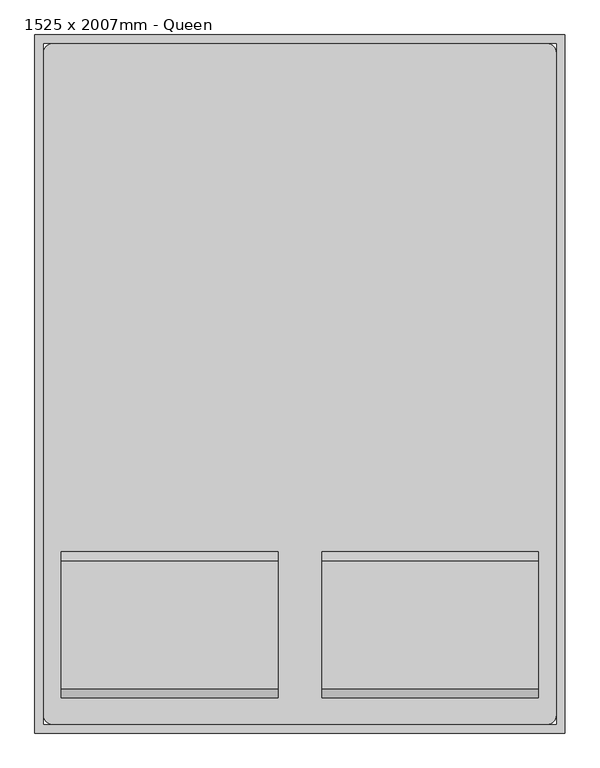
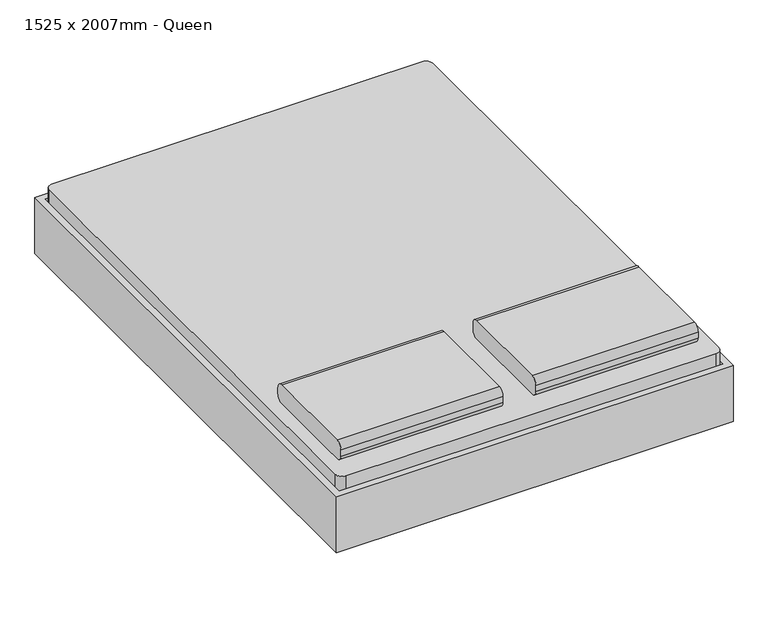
"""IFC4 building model written with IfcOpenShell, lengths in millimetres: furniture geometry, dvojlůžko : 1525 x 2007mm - Queen."""

import ifcopenshell
import ifcopenshell.guid

model = None  # the IFC model being written
_history = None  # IfcOwnerHistory: only IFC2X3 demands one
_inside = {}  # id of a spatial element -> (the spatial element, [elements in it])
_under = {}  # id of a project, library or spatial element -> (it, [spatial elements below it])
_declared = {}  # id of a project -> (the project, [libraries it declares])
_typed = {}  # id of a type object -> (the type object, [elements of that type])
_made_of = {}  # id of a material, layer set ... -> (it, [elements and type objects made of it])


def new_model(schema):
    """Start an empty IFC model of exactly this schema.

    Asked for "IFC4X3", IfcOpenShell would pick the latest addendum, in which some entities
    have other attributes; the version numbers below select the first issue.
    IFC2X3 requires an IfcOwnerHistory on every rooted entity: one is made here for all.
    """
    global model, _history
    if schema == "IFC4X3":
        model = ifcopenshell.file(schema_version=(4, 3, 0, 0))
    else:
        model = ifcopenshell.file(schema=schema)
    _inside.clear()
    _under.clear()
    _declared.clear()
    _typed.clear()
    _made_of.clear()
    _history = None
    if model.schema == "IFC2X3":
        org = make("IfcOrganization", Name="unknown")
        user = make(
            "IfcPersonAndOrganization",
            ThePerson=make("IfcPerson", FamilyName="unknown"),
            TheOrganization=org,
        )
        app = make(
            "IfcApplication",
            ApplicationDeveloper=org,
            Version="unknown",
            ApplicationFullName="unknown",
            ApplicationIdentifier="unknown",
        )
        _history = make(
            "IfcOwnerHistory",
            OwningUser=user,
            OwningApplication=app,
            ChangeAction="ADDED",
            CreationDate=0,
        )
    return model


def make(cls, **values):
    """One entity of the class cls with the attributes given. An attribute that is None is left unset."""
    return model.create_entity(
        cls, **{name: value for name, value in values.items() if value is not None}
    )


def rooted(cls, **values):
    """An entity with a GlobalId (a new one), such as an element, a storey or a relation."""
    return make(cls, GlobalId=ifcopenshell.guid.new(), OwnerHistory=_history, **values)


def si_unit(unit_type, name, prefix=None):
    """IfcSIUnit, for example si_unit("LENGTHUNIT", "METRE", prefix="MILLI")."""
    return make("IfcSIUnit", UnitType=unit_type, Prefix=prefix, Name=name)


def assignment(units):
    """IfcUnitAssignment: the units of a project."""
    return None if units is None else make("IfcUnitAssignment", Units=units)


def point(xyz):
    """IfcCartesianPoint."""
    return None if xyz is None else make("IfcCartesianPoint", Coordinates=xyz)


def direction(xyz):
    """IfcDirection."""
    return None if xyz is None else make("IfcDirection", DirectionRatios=xyz)


def frame(location, z_axis=None, x_axis=None):
    """IfcAxis2Placement3D, a coordinate frame: its origin and axes. An axis left out is left unset."""
    return make(
        "IfcAxis2Placement3D",
        Location=point(location),
        Axis=direction(z_axis),
        RefDirection=direction(x_axis),
    )


def frame_2d(location, x_axis=None):
    """IfcAxis2Placement2D, a coordinate frame in the plane: its origin and x axis."""
    return make(
        "IfcAxis2Placement2D", Location=point(location), RefDirection=direction(x_axis)
    )


def origin():
    """The frame at (0, 0, 0) with its axes left unset."""
    return frame((0.0, 0.0, 0.0))


def place(relative_to, where):
    """IfcLocalPlacement: puts the frame where relative to a parent placement (None: the world)."""
    return make(
        "IfcLocalPlacement", PlacementRelTo=relative_to, RelativePlacement=where
    )


def context(
    kind, dimensions, precision=None, world=None, true_north=None, identifier=None
):
    """IfcGeometricRepresentationContext, for example the 3D "Model" context."""
    return make(
        "IfcGeometricRepresentationContext",
        ContextIdentifier=identifier,
        ContextType=kind,
        CoordinateSpaceDimension=dimensions,
        Precision=precision,
        WorldCoordinateSystem=world,
        TrueNorth=true_north,
    )


def project(units=None, contexts=None):
    """IfcProject with its units and contexts."""
    return rooted(
        "IfcProject",
        Name="project",
        RepresentationContexts=contexts,
        UnitsInContext=assignment(units),
    )


def spatial(cls, under=None, at=None, **own):
    """A site, building, storey or space (cls), placed at a placement, below another one or the project."""
    s = rooted(cls, ObjectPlacement=at, **own)
    if under is not None:
        _under.setdefault(under.id(), (under, []))[1].append(s)
    return s


def polyline(points):
    """IfcPolyline through the points."""
    return make("IfcPolyline", Points=[point(p) for p in points])


def circle_curve(where, radius):
    """IfcCircle in the frame where."""
    return make("IfcCircle", Position=where, Radius=radius)


def trimmed(basis, trim1, trim2, sense, master):
    """IfcTrimmedCurve: the piece of a basis curve between two trims."""
    return make(
        "IfcTrimmedCurve",
        BasisCurve=basis,
        Trim1=trim1,
        Trim2=trim2,
        SenseAgreement=sense,
        MasterRepresentation=master,
    )


def segment(curve, same_sense, transition):
    """IfcCompositeCurveSegment."""
    return make(
        "IfcCompositeCurveSegment",
        Transition=transition,
        SameSense=same_sense,
        ParentCurve=curve,
    )


def composite_curve(segments, self_intersect=None):
    """IfcCompositeCurve: segments joined end to end."""
    return make("IfcCompositeCurve", Segments=segments, SelfIntersect=self_intersect)


def outline(outer, holes=None, kind="AREA"):
    """IfcArbitraryClosedProfileDef: a profile drawn as a closed curve; with holes, ...WithVoids."""
    if holes is None:
        return make("IfcArbitraryClosedProfileDef", ProfileType=kind, OuterCurve=outer)
    return make(
        "IfcArbitraryProfileDefWithVoids",
        ProfileType=kind,
        OuterCurve=outer,
        InnerCurves=holes,
    )


def extrude(swept, where, along, depth):
    """IfcExtrudedAreaSolid: the profile swept, set in the frame where, extruded along a direction by depth."""
    return make(
        "IfcExtrudedAreaSolid",
        SweptArea=swept,
        Position=where,
        ExtrudedDirection=direction(along),
        Depth=depth,
    )


def shape(context_of_items, identifier, shape_type, items):
    """IfcShapeRepresentation: the items that make up one representation, for example the "Body"."""
    return make(
        "IfcShapeRepresentation",
        ContextOfItems=context_of_items,
        RepresentationIdentifier=identifier,
        RepresentationType=shape_type,
        Items=items,
    )


def source(mapping_origin, context_of_items, identifier, shape_type, items):
    """IfcRepresentationMap: a shape defined once, which mapped items show again and again."""
    return make(
        "IfcRepresentationMap",
        MappingOrigin=mapping_origin,
        MappedRepresentation=shape(context_of_items, identifier, shape_type, items),
    )


def transform(
    local_origin,
    x_axis=None,
    y_axis=None,
    z_axis=None,
    scale=None,
    scale2=None,
    scale3=None,
    uniform=True,
):
    """IfcCartesianTransformationOperator3D, or its non-uniform kind. x_axis, y_axis, z_axis: its Axis1, 2, 3."""
    if uniform:
        return make(
            "IfcCartesianTransformationOperator3D",
            Axis1=direction(x_axis),
            Axis2=direction(y_axis),
            LocalOrigin=point(local_origin),
            Scale=scale,
            Axis3=direction(z_axis),
        )
    return make(
        "IfcCartesianTransformationOperator3DnonUniform",
        Axis1=direction(x_axis),
        Axis2=direction(y_axis),
        LocalOrigin=point(local_origin),
        Scale=scale,
        Axis3=direction(z_axis),
        Scale2=scale2,
        Scale3=scale3,
    )


def mapped(mapping_source, mapping_target):
    """IfcMappedItem: shows the shape of a source again, moved by a transform."""
    return make(
        "IfcMappedItem", MappingSource=mapping_source, MappingTarget=mapping_target
    )


def made_of(thing, what):
    """Note that an element or type object is made of a material, layer set ...; save() writes the relation."""
    if what is not None:
        _made_of.setdefault(what.id(), (what, []))[1].append(thing)
    return thing


def element(
    cls,
    number,
    at=None,
    inside=None,
    cuts=None,
    type_object=None,
    material=None,
    context=None,
    identifier="Body",
    shape_type=None,
    held_by="IfcProductDefinitionShape",
    body=None,
    shapes=None,
    **own,
):
    """One element of the class cls, such as IfcWall. Its Tag is "e" and its number.

    at: its placement. inside: the storey or other place that contains it. cuts: it is an
    opening in that element (IfcRelVoidsElement). A single representation is given by context,
    identifier, shape_type and body (its items); several are given by shapes. held_by: the class
    of the entity that holds the representations. save() writes the other relations.
    """
    e = rooted(cls, Tag="e%d" % number, ObjectPlacement=at, **own)
    if body is not None:
        shapes = [shape(context, identifier, shape_type, body)]
    if shapes is not None:
        e.Representation = make(held_by, Representations=shapes)
    if inside is not None:
        _inside.setdefault(inside.id(), (inside, []))[1].append(e)
    if cuts is not None:
        rooted(
            "IfcRelVoidsElement", RelatingBuildingElement=cuts, RelatedOpeningElement=e
        )
    if type_object is not None:
        _typed.setdefault(type_object.id(), (type_object, []))[1].append(e)
    return made_of(e, material)


def aggregate(whole, parts):
    """IfcRelAggregates: a whole, such as a stair, and the parts it consists of."""
    return rooted("IfcRelAggregates", RelatingObject=whole, RelatedObjects=parts)


def save(model, path):
    """Write the relations noted so far, then the file.

    IfcRelAggregates (storeys below a building ...), IfcRelContainedInSpatialStructure (elements
    in a storey), IfcRelDefinesByType, IfcRelAssociatesMaterial and IfcRelDeclares: one each for
    every whole, place, type object, material and project.
    """
    for whole, parts in _under.values():
        aggregate(whole, parts)
    for where, things in _inside.values():
        rooted(
            "IfcRelContainedInSpatialStructure",
            RelatedElements=things,
            RelatingStructure=where,
        )
    for kind, things in _typed.values():
        rooted("IfcRelDefinesByType", RelatedObjects=things, RelatingType=kind)
    for what, things in _made_of.values():
        rooted("IfcRelAssociatesMaterial", RelatedObjects=things, RelatingMaterial=what)
    for by, libraries in _declared.values():
        rooted("IfcRelDeclares", RelatingContext=by, RelatedDefinitions=libraries)
    model.write(path)


def plane_surface(at):
    """IfcPlane: the flat surface through the origin of the frame at, square to its z axis."""
    return make("IfcPlane", Position=at)


def cylinder_surface(at, radius):
    """IfcCylindricalSurface: all points at the distance radius from the z axis of the frame at."""
    return make("IfcCylindricalSurface", Position=at, Radius=radius)


def revolved_surface(curve, axis_point, axis_direction):
    """IfcSurfaceOfRevolution: the curve turned about the line through axis_point along axis_direction."""
    return make(
        "IfcSurfaceOfRevolution",
        SweptCurve=make("IfcArbitraryOpenProfileDef", ProfileType="CURVE", Curve=curve),
        AxisPosition=make("IfcAxis1Placement", Location=point(axis_point), Axis=direction(axis_direction)),
    )


def advanced_brep(points, edges, surfaces, faces):
    """IfcAdvancedBrep: a solid bounded by faces that lie on surfaces and meet in shared edges.

    An edge is (start, end): straight between two places in points (the first is 0);
    or (start, end, curve); or (start, end, curve, False) where it runs against its curve.
    A face is (place in surfaces, loops), or (place, loops, False) where it looks against
    its surface's normal. A loop lists edges by number (the first is 1), with a minus sign
    where the edge is run from its end to its start. The first loop is the outer one.
    """
    corners = [point(p) for p in points]
    vertices = [make("IfcVertexPoint", VertexGeometry=c) for c in corners]
    made = []
    for start, end, *more in edges:
        made.append(
            make(
                "IfcEdgeCurve",
                EdgeStart=vertices[start],
                EdgeEnd=vertices[end],
                EdgeGeometry=more[0] if more else make("IfcPolyline", Points=[corners[start], corners[end]]),
                SameSense=more[1] if len(more) > 1 else True,
            )
        )
    hull = []
    for where, loops, *sense in faces:
        bounds = []
        for j, loop in enumerate(loops):
            ring = [make("IfcOrientedEdge", EdgeElement=made[abs(k) - 1], Orientation=k > 0) for k in loop]
            bounds.append(
                make(
                    "IfcFaceOuterBound" if j == 0 else "IfcFaceBound",
                    Bound=make("IfcEdgeLoop", EdgeList=ring),
                    Orientation=True,
                )
            )
        hull.append(make("IfcAdvancedFace", Bounds=bounds, FaceSurface=surfaces[where], SameSense=sense[0] if sense else True))
    return make("IfcAdvancedBrep", Outer=make("IfcClosedShell", CfsFaces=hull))


def furniture_1525_x_2007mm_queen_a4aaa23e(model_context):
    return source(origin(), model_context, "Body", "SolidModel", [
        extrude(outline(composite_curve([segment(trimmed(circle_curve(frame_2d((-642.0704918, 431.8)), 25.4), [point((-642.0704918, 406.4))], [point((-667.4704918, 431.8))], False, "CARTESIAN"), True, "CONTINUOUS"), segment(polyline([(-667.4704918, 431.8), (-667.4704918, 457.2)]), True, "CONTINUOUS"), segment(trimmed(circle_curve(frame_2d((-642.0704918, 457.2)), 25.4), [point((-667.4704918, 457.2))], [point((-642.0704918, 482.6))], False, "CARTESIAN"), True, "CONTINUOUS"), segment(polyline([(-642.0704918, 482.6), (-273.7704918, 482.6)]), True, "CONTINUOUS"), segment(trimmed(circle_curve(frame_2d((-273.7704918, 457.2)), 25.4), [point((-273.7704918, 482.6))], [point((-248.3704918, 457.2))], False, "CARTESIAN"), True, "CONTINUOUS"), segment(polyline([(-248.3704918, 457.2), (-248.3704918, 431.8)]), True, "CONTINUOUS"), segment(trimmed(circle_curve(frame_2d((-273.7704918, 431.8)), 25.4), [point((-248.3704918, 431.8))], [point((-273.7704918, 406.4))], False, "CARTESIAN"), True, "CONTINUOUS"), segment(polyline([(-273.7704918, 406.4), (-642.0704918, 406.4)]), True, "CONTINUOUS")], self_intersect=False)), frame((402.652459, 0.0, 0.0), z_axis=(1.0, 0.0, 0.0), x_axis=(0.0, 1.0, 0.0)), (0.0, 0.0, 1.0), 622.8),
        extrude(outline(composite_curve([segment(trimmed(circle_curve(frame_2d((-642.0704918, 431.8)), 25.4), [point((-642.0704918, 406.4))], [point((-667.4704918, 431.8))], False, "CARTESIAN"), True, "CONTINUOUS"), segment(polyline([(-667.4704918, 431.8), (-667.4704918, 457.2)]), True, "CONTINUOUS"), segment(trimmed(circle_curve(frame_2d((-642.0704918, 457.2)), 25.4), [point((-667.4704918, 457.2))], [point((-642.0704918, 482.6))], False, "CARTESIAN"), True, "CONTINUOUS"), segment(polyline([(-642.0704918, 482.6), (-273.7704918, 482.6)]), True, "CONTINUOUS"), segment(trimmed(circle_curve(frame_2d((-273.7704918, 457.2)), 25.4), [point((-273.7704918, 482.6))], [point((-248.3704918, 457.2))], False, "CARTESIAN"), True, "CONTINUOUS"), segment(polyline([(-248.3704918, 457.2), (-248.3704918, 431.8)]), True, "CONTINUOUS"), segment(trimmed(circle_curve(frame_2d((-273.7704918, 431.8)), 25.4), [point((-248.3704918, 431.8))], [point((-273.7704918, 406.4))], False, "CARTESIAN"), True, "CONTINUOUS"), segment(polyline([(-273.7704918, 406.4), (-642.0704918, 406.4)]), True, "CONTINUOUS")], self_intersect=False)), frame((-347.147541, 0.0, 0.0), z_axis=(1.0, 0.0, 0.0), x_axis=(0.0, 1.0, 0.0)), (0.0, 0.0, 1.0), 622.8),
        advanced_brep(
        [(-397.6231784, -515.0704918, 177.8), (-397.6231784, -515.0704918, 196.85), (-397.6231784, -438.8704918, 196.85), (-397.6231784, -438.8704918, 177.8), (-346.8231784, -438.8704918, 177.8), (-346.8231784, -515.0704918, 177.8), (-334.6869899, -438.8704918, 196.85), (-334.6869899, -515.0704918, 196.85), (-270.7523099, -438.8704918, 14.6654962), (-270.7523099, -515.0704918, 14.6654962), (-253.4871466, -438.8704918, 22.716374), (-253.4871466, -515.0704918, 22.716374), (-247.7320921, -438.8704918, 0.0), (-247.7320921, -515.0704918, 0.0), (-247.7320921, -438.8704918, 19.05), (-247.7320921, -515.0704918, 19.05), (-169.1195862, -438.8704918, 0.0), (-169.1195862, -515.0704918, 0.0), (-169.1195862, -438.8704918, 19.05), (-169.1195862, -515.0704918, 19.05), (-156.4195862, -438.8704918, 3.4029547), (-156.4195862, -515.0704918, 3.4029547), (-165.9445862, -438.8704918, 19.9007387), (-165.9445862, -515.0704918, 19.9007387), (-96.322541, -438.8704918, 38.1), (-96.322541, -515.0704918, 38.1), (-101.4269731, -438.8704918, 57.15), (-101.4269731, -515.0704918, 57.15), (774.9518216, -438.8704918, 38.1), (774.9518216, -515.0704918, 38.1), (780.0562537, -438.8704918, 57.15), (780.0562537, -515.0704918, 57.15), (835.0488669, -438.8704918, 3.4029547), (835.0488669, -515.0704918, 3.4029547), (844.5738669, -438.8704918, 19.9007387), (844.5738669, -515.0704918, 19.9007387), (847.7488669, -438.8704918, 0.0), (847.7488669, -515.0704918, 0.0), (847.7488669, -438.8704918, 19.05), (847.7488669, -515.0704918, 19.05), (926.3613728, -438.8704918, 0.0), (926.3613728, -515.0704918, 0.0), (926.3613728, -438.8704918, 19.05), (926.3613728, -515.0704918, 19.05), (949.3815906, -438.8704918, 14.6654962), (949.3815906, -515.0704918, 14.6654962), (932.1164272, -438.8704918, 22.716374), (932.1164272, -515.0704918, 22.716374), (1025.452459, -438.8704918, 177.8), (1025.452459, -515.0704918, 177.8), (1013.3162705, -438.8704918, 196.85), (1013.3162705, -515.0704918, 196.85), (1076.252459, -515.0704918, 177.8), (1076.252459, -438.8704918, 177.8), (1076.252459, -438.8704918, 196.85), (1076.252459, -515.0704918, 196.85)],
        [
            (0, 1),
            (1, 2),
            (2, 3),
            (3, 0),
            (3, 4),
            (4, 5),
            (5, 0),
            (2, 6),
            (6, 4),
            (1, 7),
            (7, 6),
            (5, 7),
            (4, 8),
            (8, 9),
            (9, 5),
            (6, 10),
            (10, 8),
            (7, 11),
            (11, 10),
            (9, 11),
            (12, 13),
            (13, 9, circle_curve(frame((-247.7320921, -515.0704918, 25.4), z_axis=(0.0, 1.0, 0.0), x_axis=(-0.9063077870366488, 0.0, -0.4226182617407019)), 25.4)),
            (8, 12, circle_curve(frame((-247.7320921, -438.8704918, 25.4), z_axis=(0.0, -1.0, 0.0), x_axis=(-0.9063077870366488, 0.0, -0.4226182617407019)), 25.4)),
            (14, 12),
            (10, 14, circle_curve(frame((-247.7320921, -438.8704918, 25.4), z_axis=(0.0, -1.0, 0.0), x_axis=(-0.9063077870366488, 0.0, -0.4226182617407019)), 6.35)),
            (15, 14),
            (11, 15, circle_curve(frame((-247.7320921, -515.0704918, 25.4), z_axis=(0.0, -1.0, 0.0), x_axis=(-0.9063077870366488, 0.0, -0.4226182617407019)), 6.35)),
            (13, 15),
            (12, 16),
            (16, 17),
            (17, 13),
            (14, 18),
            (18, 16),
            (15, 19),
            (19, 18),
            (17, 19),
            (20, 21),
            (21, 17, circle_curve(frame((-169.1195862, -515.0704918, 25.4), z_axis=(0.0, 1.0, 0.0), x_axis=(0.0, 0.0, -1.0)), 25.4)),
            (16, 20, circle_curve(frame((-169.1195862, -438.8704918, 25.4), z_axis=(0.0, -1.0, 0.0), x_axis=(0.0, 0.0, -1.0)), 25.4)),
            (22, 20),
            (18, 22, circle_curve(frame((-169.1195862, -438.8704918, 25.4), z_axis=(0.0, -1.0, 0.0), x_axis=(0.0, 0.0, -1.0)), 6.35)),
            (23, 22),
            (19, 23, circle_curve(frame((-169.1195862, -515.0704918, 25.4), z_axis=(0.0, -1.0, 0.0), x_axis=(0.0, 0.0, -1.0)), 6.35)),
            (21, 23),
            (20, 24),
            (24, 25),
            (25, 21),
            (22, 26),
            (26, 24),
            (23, 27),
            (27, 26),
            (25, 27),
            (24, 28),
            (28, 29),
            (29, 25),
            (26, 30),
            (30, 28),
            (27, 31),
            (31, 30),
            (29, 31),
            (28, 32),
            (32, 33),
            (33, 29),
            (30, 34),
            (34, 32),
            (31, 35),
            (35, 34),
            (33, 35),
            (36, 37),
            (37, 33, circle_curve(frame((847.7488669, -515.0704918, 25.4), z_axis=(0.0, 1.0, 0.0), x_axis=(-0.5000000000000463, 0.0, -0.8660254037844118)), 25.4)),
            (32, 36, circle_curve(frame((847.7488669, -438.8704918, 25.4), z_axis=(0.0, -1.0, 0.0), x_axis=(-0.5000000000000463, 0.0, -0.8660254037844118)), 25.4)),
            (38, 36),
            (34, 38, circle_curve(frame((847.7488669, -438.8704918, 25.4), z_axis=(0.0, -1.0, 0.0), x_axis=(-0.5000000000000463, 0.0, -0.8660254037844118)), 6.35)),
            (39, 38),
            (35, 39, circle_curve(frame((847.7488669, -515.0704918, 25.4), z_axis=(0.0, -1.0, 0.0), x_axis=(-0.5000000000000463, 0.0, -0.8660254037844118)), 6.35)),
            (37, 39),
            (36, 40),
            (40, 41),
            (41, 37),
            (38, 42),
            (42, 40),
            (39, 43),
            (43, 42),
            (41, 43),
            (44, 45),
            (45, 41, circle_curve(frame((926.3613728, -515.0704918, 25.4), z_axis=(0.0, 1.0, 0.0), x_axis=(0.0, 0.0, -1.0)), 25.4)),
            (40, 44, circle_curve(frame((926.3613728, -438.8704918, 25.4), z_axis=(0.0, -1.0, 0.0), x_axis=(0.0, 0.0, -1.0)), 25.4)),
            (46, 44),
            (42, 46, circle_curve(frame((926.3613728, -438.8704918, 25.4), z_axis=(0.0, -1.0, 0.0), x_axis=(0.0, 0.0, -1.0)), 6.35)),
            (47, 46),
            (43, 47, circle_curve(frame((926.3613728, -515.0704918, 25.4), z_axis=(0.0, -1.0, 0.0), x_axis=(0.0, 0.0, -1.0)), 6.35)),
            (45, 47),
            (44, 48),
            (48, 49),
            (49, 45),
            (46, 50),
            (50, 48),
            (47, 51),
            (51, 50),
            (49, 51),
            (52, 53),
            (53, 54),
            (54, 55),
            (55, 52),
            (48, 53),
            (52, 49),
            (50, 54),
            (51, 55),
        ],
        [
            plane_surface(frame((-397.6231784, -769.0704918, -152.9490627), z_axis=(-1.0, 0.0, 0.0), x_axis=(0.0, -1.0, 0.0))),
            plane_surface(frame((-397.6231784, -515.0704918, 177.8), z_axis=(0.0, 0.0, -1.0), x_axis=(1.0, 0.0, 0.0))),
            plane_surface(frame((-397.6231784, -438.8704918, 177.8), z_axis=(0.0, 1.0, 0.0), x_axis=(1.0, 0.0, 0.0))),
            plane_surface(frame((-397.6231784, -438.8704918, 196.85), z_axis=(0.0, 0.0, 1.0), x_axis=(1.0, 0.0, 0.0))),
            plane_surface(frame((-397.6231784, -515.0704918, 196.85), z_axis=(0.0, -1.0, 0.0), x_axis=(1.0, 0.0, 0.0))),
            plane_surface(frame((-346.8231784, -515.0704918, 177.8), z_axis=(-0.9063077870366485, 0.0, -0.4226182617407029), x_axis=(0.4226182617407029, 0.0, -0.9063077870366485))),
            plane_surface(frame((-346.8231784, -438.8704918, 177.8), z_axis=(0.0, 1.0, 0.0), x_axis=(0.42261826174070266, 0.0, -0.9063077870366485))),
            plane_surface(frame((-334.6869899, -438.8704918, 196.85), z_axis=(0.9063077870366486, 0.0, 0.4226182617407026), x_axis=(0.4226182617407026, 0.0, -0.9063077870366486))),
            plane_surface(frame((-334.6869899, -515.0704918, 196.85), z_axis=(0.0, -1.0, 0.0), x_axis=(0.42261826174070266, 0.0, -0.9063077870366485))),
            cylinder_surface(frame((-247.7320921, -769.0704918, 25.4), z_axis=(0.0, 1.0, 0.0), x_axis=(-0.9063077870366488, 0.0, -0.4226182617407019)), 25.4),
            plane_surface(frame((-247.7320921, -438.8704918, 25.4), z_axis=(0.0, 1.0, 0.0), x_axis=(-0.9063077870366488, 0.0, -0.4226182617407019))),
            revolved_surface(polyline([(-253.4871465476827, -438.8704918, 22.716374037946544), (-253.4871465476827, -515.0704918, 22.716374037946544)]), (-247.7320921, -769.0704918, 25.4), (0.0, 1.0, 0.0)),
            plane_surface(frame((-247.7320921, -515.0704918, 25.4), z_axis=(0.0, -1.0, 0.0), x_axis=(-0.9063077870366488, 0.0, -0.4226182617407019))),
            plane_surface(frame((-247.7320921, -515.0704918, 0.0), z_axis=(0.0, 0.0, -1.0), x_axis=(1.0, 0.0, 0.0))),
            plane_surface(frame((-247.7320921, -438.8704918, 0.0), z_axis=(0.0, 1.0, 0.0), x_axis=(1.0, 0.0, 0.0))),
            plane_surface(frame((-247.7320921, -438.8704918, 19.05), z_axis=(0.0, 0.0, 1.0), x_axis=(1.0, 0.0, 0.0))),
            plane_surface(frame((-247.7320921, -515.0704918, 19.05), z_axis=(0.0, -1.0, 0.0), x_axis=(1.0, 0.0, 0.0))),
            cylinder_surface(frame((-169.1195862, -769.0704918, 25.4), z_axis=(0.0, 1.0, 0.0), x_axis=(0.0, 0.0, -1.0)), 25.4),
            plane_surface(frame((-169.1195862, -438.8704918, 25.4), z_axis=(0.0, 1.0, 0.0), x_axis=(0.0, 0.0, -1.0))),
            revolved_surface(polyline([(-169.1195862, -438.8704918, 19.049999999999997), (-169.1195862, -515.0704918, 19.049999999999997)]), (-169.1195862, -769.0704918, 25.4), (0.0, 1.0, 0.0)),
            plane_surface(frame((-169.1195862, -515.0704918, 25.4), z_axis=(0.0, -1.0, 0.0), x_axis=(0.0, 0.0, -1.0))),
            plane_surface(frame((-156.4195862, -515.0704918, 3.4029547), z_axis=(0.4999999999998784, 0.0, -0.8660254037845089), x_axis=(0.8660254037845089, 0.0, 0.4999999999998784))),
            plane_surface(frame((-156.4195862, -438.8704918, 3.4029547), z_axis=(0.0, 1.0000000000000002, 0.0), x_axis=(0.8660254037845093, 0.0, 0.4999999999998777))),
            plane_surface(frame((-165.9445862, -438.8704918, 19.9007387), z_axis=(-0.499999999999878, 0.0, 0.8660254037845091), x_axis=(0.8660254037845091, 0.0, 0.499999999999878))),
            plane_surface(frame((-165.9445862, -515.0704918, 19.9007387), z_axis=(0.0, -1.0, 0.0), x_axis=(0.8660254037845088, 0.0, 0.49999999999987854))),
            plane_surface(frame((-96.322541, -515.0704918, 38.1), z_axis=(0.0, 0.0, -1.0), x_axis=(1.0, 0.0, 0.0))),
            plane_surface(frame((-96.322541, -438.8704918, 38.1), z_axis=(0.0, 1.0, 0.0), x_axis=(1.0, 0.0, 0.0))),
            plane_surface(frame((-101.4269731, -438.8704918, 57.15), z_axis=(0.0, 0.0, 1.0), x_axis=(1.0, 0.0, 0.0))),
            plane_surface(frame((-101.4269731, -515.0704918, 57.15), z_axis=(0.0, -1.0, 0.0), x_axis=(1.0, 0.0, 0.0))),
            plane_surface(frame((774.9518216, -515.0704918, 38.1), z_axis=(-0.5000000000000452, 0.0, -0.8660254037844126), x_axis=(0.8660254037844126, 0.0, -0.5000000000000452))),
            plane_surface(frame((774.9518216, -438.8704918, 38.1), z_axis=(0.0, 1.0, 0.0), x_axis=(0.8660254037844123, 0.0, -0.5000000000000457))),
            plane_surface(frame((780.0562537, -438.8704918, 57.15), z_axis=(0.5000000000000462, 0.0, 0.8660254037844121), x_axis=(0.8660254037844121, 0.0, -0.5000000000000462))),
            plane_surface(frame((780.0562537, -515.0704918, 57.15), z_axis=(0.0, -1.0000000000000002, 0.0), x_axis=(0.866025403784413, 0.0, -0.5000000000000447))),
            cylinder_surface(frame((847.7488669, -769.0704918, 25.4), z_axis=(0.0, 1.0, 0.0), x_axis=(-0.5000000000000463, 0.0, -0.8660254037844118)), 25.4),
            plane_surface(frame((847.7488669, -438.8704918, 25.4), z_axis=(0.0, 1.0000000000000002, 0.0), x_axis=(-0.5000000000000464, 0.0, -0.866025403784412))),
            revolved_surface(polyline([(844.5738668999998, -438.8704918, 19.90073868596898), (844.5738668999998, -515.0704918, 19.90073868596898)]), (847.7488669, -769.0704918, 25.4), (0.0, 1.0, 0.0)),
            plane_surface(frame((847.7488669, -515.0704918, 25.4), z_axis=(0.0, -1.0000000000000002, 0.0), x_axis=(-0.5000000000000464, 0.0, -0.866025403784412))),
            plane_surface(frame((847.7488669, -515.0704918, 0.0), z_axis=(0.0, 0.0, -1.0), x_axis=(1.0, 0.0, 0.0))),
            plane_surface(frame((847.7488669, -438.8704918, 0.0), z_axis=(0.0, 1.0, 0.0), x_axis=(1.0, 0.0, 0.0))),
            plane_surface(frame((847.7488669, -438.8704918, 19.05), z_axis=(0.0, 0.0, 1.0), x_axis=(1.0, 0.0, 0.0))),
            plane_surface(frame((847.7488669, -515.0704918, 19.05), z_axis=(0.0, -1.0, 0.0), x_axis=(1.0, 0.0, 0.0))),
            cylinder_surface(frame((926.3613728, -769.0704918, 25.4), z_axis=(0.0, 1.0, 0.0), x_axis=(0.0, 0.0, -1.0)), 25.4),
            plane_surface(frame((926.3613728, -438.8704918, 25.4), z_axis=(0.0, 1.0, 0.0), x_axis=(0.0, 0.0, -1.0))),
            revolved_surface(polyline([(926.3613728, -438.8704918, 19.049999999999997), (926.3613728, -515.0704918, 19.049999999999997)]), (926.3613728, -769.0704918, 25.4), (0.0, 1.0, 0.0)),
            plane_surface(frame((926.3613728, -515.0704918, 25.4), z_axis=(0.0, -1.0, 0.0), x_axis=(0.0, 0.0, -1.0))),
            plane_surface(frame((949.3815906, -515.0704918, 14.6654962), z_axis=(0.9063077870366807, 0.0, -0.4226182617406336), x_axis=(0.4226182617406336, 0.0, 0.9063077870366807))),
            plane_surface(frame((949.3815906, -438.8704918, 14.6654962), z_axis=(0.0, 1.0000000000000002, 0.0), x_axis=(0.42261826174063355, 0.0, 0.9063077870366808))),
            plane_surface(frame((932.1164272, -438.8704918, 22.716374), z_axis=(-0.9063077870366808, 0.0, 0.4226182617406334), x_axis=(0.4226182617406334, 0.0, 0.9063077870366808))),
            plane_surface(frame((932.1164272, -515.0704918, 22.716374), z_axis=(0.0, -1.0, 0.0), x_axis=(0.42261826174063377, 0.0, 0.9063077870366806))),
            plane_surface(frame((1076.252459, -769.0704918, -152.9490627), z_axis=(1.0, 0.0, 0.0), x_axis=(0.0, -1.0, 0.0))),
            plane_surface(frame((1025.452459, -515.0704918, 177.8), z_axis=(0.0, 0.0, -1.0), x_axis=(1.0, 0.0, 0.0))),
            plane_surface(frame((1025.452459, -438.8704918, 177.8), z_axis=(0.0, 1.0, 0.0), x_axis=(1.0, 0.0, 0.0))),
            plane_surface(frame((1013.3162705, -438.8704918, 196.85), z_axis=(0.0, 0.0, 1.0), x_axis=(1.0, 0.0, 0.0))),
            plane_surface(frame((1013.3162705, -515.0704918, 196.85), z_axis=(0.0, -1.0, 0.0), x_axis=(1.0, 0.0, 0.0))),
        ],
        [
            (0, [[1, 2, 3, 4]]),
            (1, [[5, 6, 7, -4]]),
            (2, [[8, 9, -5, -3]]),
            (3, [[10, 11, -8, -2]]),
            (4, [[-7, 12, -10, -1]]),
            (5, [[13, 14, 15, -6]]),
            (6, [[16, 17, -13, -9]]),
            (7, [[18, 19, -16, -11]]),
            (8, [[-15, 20, -18, -12]]),
            (9, [[21, 22, -14, 23]]),
            (10, [[24, -23, -17, 25]]),
            (11, [[26, -25, -19, 27]]),
            (12, [[28, -27, -20, -22]]),
            (13, [[29, 30, 31, -21]]),
            (14, [[32, 33, -29, -24]]),
            (15, [[34, 35, -32, -26]]),
            (16, [[-31, 36, -34, -28]]),
            (17, [[37, 38, -30, 39]]),
            (18, [[40, -39, -33, 41]]),
            (19, [[42, -41, -35, 43]]),
            (20, [[44, -43, -36, -38]]),
            (21, [[45, 46, 47, -37]]),
            (22, [[48, 49, -45, -40]]),
            (23, [[50, 51, -48, -42]]),
            (24, [[-47, 52, -50, -44]]),
            (25, [[53, 54, 55, -46]]),
            (26, [[56, 57, -53, -49]]),
            (27, [[58, 59, -56, -51]]),
            (28, [[-55, 60, -58, -52]]),
            (29, [[61, 62, 63, -54]]),
            (30, [[64, 65, -61, -57]]),
            (31, [[66, 67, -64, -59]]),
            (32, [[-63, 68, -66, -60]]),
            (33, [[69, 70, -62, 71]]),
            (34, [[72, -71, -65, 73]]),
            (35, [[74, -73, -67, 75]]),
            (36, [[76, -75, -68, -70]]),
            (37, [[77, 78, 79, -69]]),
            (38, [[80, 81, -77, -72]]),
            (39, [[82, 83, -80, -74]]),
            (40, [[-79, 84, -82, -76]]),
            (41, [[85, 86, -78, 87]]),
            (42, [[88, -87, -81, 89]]),
            (43, [[90, -89, -83, 91]]),
            (44, [[92, -91, -84, -86]]),
            (45, [[93, 94, 95, -85]]),
            (46, [[96, 97, -93, -88]]),
            (47, [[98, 99, -96, -90]]),
            (48, [[-95, 100, -98, -92]]),
            (49, [[101, 102, 103, 104]]),
            (50, [[105, -101, 106, -94]]),
            (51, [[107, -102, -105, -97]]),
            (52, [[108, -103, -107, -99]]),
            (53, [[-106, -104, -108, -100]]),
        ],
    ),
        extrude(outline(composite_curve([segment(trimmed(circle_curve(frame_2d((-372.547541, -718.2704918)), 25.4), [point((-372.547541, -743.6704918))], [point((-397.947541, -718.2704918))], False, "CARTESIAN"), True, "CONTINUOUS"), segment(polyline([(-397.947541, -718.2704918), (-397.947541, 1187.1295082)]), True, "CONTINUOUS"), segment(trimmed(circle_curve(frame_2d((-372.547541, 1187.1295082)), 25.4), [point((-397.947541, 1187.1295082))], [point((-372.547541, 1212.5295082))], False, "CARTESIAN"), True, "CONTINUOUS"), segment(polyline([(-372.547541, 1212.5295082), (1050.852459, 1212.5295082)]), True, "CONTINUOUS"), segment(trimmed(circle_curve(frame_2d((1050.852459, 1187.1295082)), 25.4), [point((1050.852459, 1212.5295082))], [point((1076.252459, 1187.1295082))], False, "CARTESIAN"), True, "CONTINUOUS"), segment(polyline([(1076.252459, 1187.1295082), (1076.252459, -718.2704918)]), True, "CONTINUOUS"), segment(trimmed(circle_curve(frame_2d((1050.852459, -718.2704918)), 25.4), [point((1076.252459, -718.2704918))], [point((1050.852459, -743.6704918))], False, "CARTESIAN"), True, "CONTINUOUS"), segment(polyline([(1050.852459, -743.6704918), (-372.547541, -743.6704918)]), True, "CONTINUOUS")], self_intersect=False)), frame((0.0, 0.0, 203.2), z_axis=(0.0, 0.0, 1.0), x_axis=(1.0, 0.0, 0.0)), (0.0, 0.0, 1.0), 203.2),
        advanced_brep(
        [(-397.947541, 933.1295082, 196.85), (-397.947541, 1009.3295082, 196.85), (-397.947541, 1009.3295082, 177.8), (-397.947541, 933.1295082, 177.8), (-347.147541, 933.1295082, 177.8), (-335.0113525, 933.1295082, 196.85), (-347.147541, 1009.3295082, 177.8), (-335.0113525, 1009.3295082, 196.85), (-271.0766725, 933.1295082, 14.6654962), (-253.8115092, 933.1295082, 22.716374), (-271.0766725, 1009.3295082, 14.6654962), (-253.8115092, 1009.3295082, 22.716374), (-248.0564547, 933.1295082, 0.0), (-248.0564547, 933.1295082, 19.05), (-248.0564547, 1009.3295082, 0.0), (-248.0564547, 1009.3295082, 19.05), (-169.4439489, 933.1295082, 0.0), (-169.4439489, 933.1295082, 19.05), (-169.4439489, 1009.3295082, 0.0), (-169.4439489, 1009.3295082, 19.05), (-156.7439489, 933.1295082, 3.4029547), (-166.2689489, 933.1295082, 19.9007387), (-156.7439489, 1009.3295082, 3.4029547), (-166.2689489, 1009.3295082, 19.9007387), (-96.6469036, 933.1295082, 38.1), (-101.7513357, 933.1295082, 57.15), (-96.6469036, 1009.3295082, 38.1), (-101.7513357, 1009.3295082, 57.15), (774.9518216, 933.1295082, 38.1), (780.0562537, 933.1295082, 57.15), (774.9518216, 1009.3295082, 38.1), (780.0562537, 1009.3295082, 57.15), (835.0488669, 933.1295082, 3.4029547), (844.5738669, 933.1295082, 19.9007387), (835.0488669, 1009.3295082, 3.4029547), (844.5738669, 1009.3295082, 19.9007387), (847.7488669, 933.1295082, 0.0), (847.7488669, 933.1295082, 19.05), (847.7488669, 1009.3295082, 0.0), (847.7488669, 1009.3295082, 19.05), (926.3613728, 933.1295082, 0.0), (926.3613728, 933.1295082, 19.05), (926.3613728, 1009.3295082, 0.0), (926.3613728, 1009.3295082, 19.05), (949.3815906, 933.1295082, 14.6654962), (932.1164272, 933.1295082, 22.716374), (949.3815906, 1009.3295082, 14.6654962), (932.1164272, 1009.3295082, 22.716374), (1025.452459, 933.1295082, 177.8), (1013.3162705, 933.1295082, 196.85), (1025.452459, 1009.3295082, 177.8), (1013.3162705, 1009.3295082, 196.85), (1076.252459, 933.1295082, 196.85), (1076.252459, 933.1295082, 177.8), (1076.252459, 1009.3295082, 177.8), (1076.252459, 1009.3295082, 196.85)],
        [
            (0, 1),
            (1, 2),
            (2, 3),
            (3, 0),
            (3, 4),
            (4, 5),
            (5, 0),
            (2, 6),
            (6, 4),
            (1, 7),
            (7, 6),
            (5, 7),
            (4, 8),
            (8, 9),
            (9, 5),
            (6, 10),
            (10, 8),
            (7, 11),
            (11, 10),
            (9, 11),
            (12, 13),
            (13, 9, circle_curve(frame((-248.0564547, 933.1295082, 25.4), z_axis=(0.0, 1.0, 0.0), x_axis=(-0.906307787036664, 0.0, -0.4226182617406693)), 6.35)),
            (8, 12, circle_curve(frame((-248.0564547, 933.1295082, 25.4), z_axis=(0.0, -1.0, 0.0), x_axis=(-0.906307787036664, 0.0, -0.4226182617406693)), 25.4)),
            (14, 12),
            (10, 14, circle_curve(frame((-248.0564547, 1009.3295082, 25.4), z_axis=(0.0, -1.0, 0.0), x_axis=(-0.906307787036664, 0.0, -0.4226182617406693)), 25.4)),
            (15, 14),
            (11, 15, circle_curve(frame((-248.0564547, 1009.3295082, 25.4), z_axis=(0.0, -1.0, 0.0), x_axis=(-0.906307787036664, 0.0, -0.4226182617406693)), 6.35)),
            (13, 15),
            (12, 16),
            (16, 17),
            (17, 13),
            (14, 18),
            (18, 16),
            (15, 19),
            (19, 18),
            (17, 19),
            (20, 21),
            (21, 17, circle_curve(frame((-169.4439489, 933.1295082, 25.4), z_axis=(0.0, 1.0, 0.0), x_axis=(0.0, 0.0, -1.0)), 6.35)),
            (16, 20, circle_curve(frame((-169.4439489, 933.1295082, 25.4), z_axis=(0.0, -1.0, 0.0), x_axis=(0.0, 0.0, -1.0)), 25.4)),
            (22, 20),
            (18, 22, circle_curve(frame((-169.4439489, 1009.3295082, 25.4), z_axis=(0.0, -1.0, 0.0), x_axis=(0.0, 0.0, -1.0)), 25.4)),
            (23, 22),
            (19, 23, circle_curve(frame((-169.4439489, 1009.3295082, 25.4), z_axis=(0.0, -1.0, 0.0), x_axis=(0.0, 0.0, -1.0)), 6.35)),
            (21, 23),
            (20, 24),
            (24, 25),
            (25, 21),
            (22, 26),
            (26, 24),
            (23, 27),
            (27, 26),
            (25, 27),
            (24, 28),
            (28, 29),
            (29, 25),
            (26, 30),
            (30, 28),
            (27, 31),
            (31, 30),
            (29, 31),
            (28, 32),
            (32, 33),
            (33, 29),
            (30, 34),
            (34, 32),
            (31, 35),
            (35, 34),
            (33, 35),
            (36, 37),
            (37, 33, circle_curve(frame((847.7488669, 933.1295082, 25.4), z_axis=(0.0, 1.0, 0.0), x_axis=(-0.5000000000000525, 0.0, -0.8660254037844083)), 6.35)),
            (32, 36, circle_curve(frame((847.7488669, 933.1295082, 25.4), z_axis=(0.0, -1.0, 0.0), x_axis=(-0.5000000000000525, 0.0, -0.8660254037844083)), 25.4)),
            (38, 36),
            (34, 38, circle_curve(frame((847.7488669, 1009.3295082, 25.4), z_axis=(0.0, -1.0, 0.0), x_axis=(-0.5000000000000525, 0.0, -0.8660254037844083)), 25.4)),
            (39, 38),
            (35, 39, circle_curve(frame((847.7488669, 1009.3295082, 25.4), z_axis=(0.0, -1.0, 0.0), x_axis=(-0.5000000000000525, 0.0, -0.8660254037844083)), 6.35)),
            (37, 39),
            (36, 40),
            (40, 41),
            (41, 37),
            (38, 42),
            (42, 40),
            (39, 43),
            (43, 42),
            (41, 43),
            (44, 45),
            (45, 41, circle_curve(frame((926.3613728, 933.1295082, 25.4), z_axis=(0.0, 1.0, 0.0), x_axis=(0.0, 0.0, -1.0)), 6.35)),
            (40, 44, circle_curve(frame((926.3613728, 933.1295082, 25.4), z_axis=(0.0, -1.0, 0.0), x_axis=(0.0, 0.0, -1.0)), 25.4)),
            (46, 44),
            (42, 46, circle_curve(frame((926.3613728, 1009.3295082, 25.4), z_axis=(0.0, -1.0, 0.0), x_axis=(0.0, 0.0, -1.0)), 25.4)),
            (47, 46),
            (43, 47, circle_curve(frame((926.3613728, 1009.3295082, 25.4), z_axis=(0.0, -1.0, 0.0), x_axis=(0.0, 0.0, -1.0)), 6.35)),
            (45, 47),
            (44, 48),
            (48, 49),
            (49, 45),
            (46, 50),
            (50, 48),
            (47, 51),
            (51, 50),
            (49, 51),
            (52, 53),
            (53, 54),
            (54, 55),
            (55, 52),
            (48, 53),
            (52, 49),
            (50, 54),
            (51, 55),
        ],
        [
            plane_surface(frame((-397.947541, 1237.9295082, -127.5947323), z_axis=(-1.0, 0.0, 0.0), x_axis=(0.0, -1.0, 0.0))),
            plane_surface(frame((-397.947541, 933.1295082, 196.85), z_axis=(0.0, -1.0, 0.0), x_axis=(1.0, 0.0, 0.0))),
            plane_surface(frame((-397.947541, 933.1295082, 177.8), z_axis=(0.0, 0.0, -1.0), x_axis=(1.0, 0.0, 0.0))),
            plane_surface(frame((-397.947541, 1009.3295082, 177.8), z_axis=(0.0, 1.0, 0.0), x_axis=(1.0, 0.0, 0.0))),
            plane_surface(frame((-397.947541, 1009.3295082, 196.85), z_axis=(0.0, 0.0, 1.0), x_axis=(1.0, 0.0, 0.0))),
            plane_surface(frame((-335.0113525, 933.1295082, 196.85), z_axis=(0.0, -1.0, 0.0), x_axis=(0.42261826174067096, 0.0, -0.9063077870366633))),
            plane_surface(frame((-347.147541, 933.1295082, 177.8), z_axis=(-0.9063077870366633, 0.0, -0.4226182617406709), x_axis=(0.4226182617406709, 0.0, -0.9063077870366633))),
            plane_surface(frame((-347.147541, 1009.3295082, 177.8), z_axis=(0.0, 1.0000000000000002, 0.0), x_axis=(0.4226182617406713, 0.0, -0.9063077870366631))),
            plane_surface(frame((-335.0113525, 1009.3295082, 196.85), z_axis=(0.9063077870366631, 0.0, 0.4226182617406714), x_axis=(0.4226182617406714, 0.0, -0.9063077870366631))),
            plane_surface(frame((-248.0564547, 933.1295082, 25.4), z_axis=(0.0, -1.0, 0.0), x_axis=(-0.906307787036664, 0.0, -0.4226182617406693))),
            cylinder_surface(frame((-248.0564547, 1237.9295082, 25.4), z_axis=(0.0, 1.0, 0.0), x_axis=(-0.906307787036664, 0.0, -0.4226182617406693)), 25.4),
            plane_surface(frame((-248.0564547, 1009.3295082, 25.4), z_axis=(0.0, 1.0, 0.0), x_axis=(-0.906307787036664, 0.0, -0.4226182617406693))),
            revolved_surface(polyline([(-253.8115091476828, 1009.3295082, 22.71637403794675), (-253.8115091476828, 933.1295082, 22.71637403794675)]), (-248.0564547, 1237.9295082, 25.4), (0.0, 1.0, 0.0)),
            plane_surface(frame((-248.0564547, 933.1295082, 19.05), z_axis=(0.0, -1.0, 0.0), x_axis=(1.0, 0.0, 0.0))),
            plane_surface(frame((-248.0564547, 933.1295082, 0.0), z_axis=(0.0, 0.0, -1.0), x_axis=(1.0, 0.0, 0.0))),
            plane_surface(frame((-248.0564547, 1009.3295082, 0.0), z_axis=(0.0, 1.0, 0.0), x_axis=(1.0, 0.0, 0.0))),
            plane_surface(frame((-248.0564547, 1009.3295082, 19.05), z_axis=(0.0, 0.0, 1.0), x_axis=(1.0, 0.0, 0.0))),
            plane_surface(frame((-169.4439489, 933.1295082, 25.4), z_axis=(0.0, -1.0, 0.0), x_axis=(0.0, 0.0, -1.0))),
            cylinder_surface(frame((-169.4439489, 1237.9295082, 25.4), z_axis=(0.0, 1.0, 0.0), x_axis=(0.0, 0.0, -1.0)), 25.4),
            plane_surface(frame((-169.4439489, 1009.3295082, 25.4), z_axis=(0.0, 1.0, 0.0), x_axis=(0.0, 0.0, -1.0))),
            revolved_surface(polyline([(-169.4439489, 1009.3295082, 19.049999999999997), (-169.4439489, 933.1295082, 19.049999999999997)]), (-169.4439489, 1237.9295082, 25.4), (0.0, 1.0, 0.0)),
            plane_surface(frame((-166.2689489, 933.1295082, 19.9007387), z_axis=(0.0, -1.0, 0.0), x_axis=(0.8660254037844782, 0.0, 0.4999999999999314))),
            plane_surface(frame((-156.7439489, 933.1295082, 3.4029547), z_axis=(0.49999999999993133, 0.0, -0.8660254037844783), x_axis=(0.8660254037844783, 0.0, 0.49999999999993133))),
            plane_surface(frame((-156.7439489, 1009.3295082, 3.4029547), z_axis=(0.0, 1.0000000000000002, 0.0), x_axis=(0.8660254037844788, 0.0, 0.49999999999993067))),
            plane_surface(frame((-166.2689489, 1009.3295082, 19.9007387), z_axis=(-0.49999999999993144, 0.0, 0.8660254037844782), x_axis=(0.8660254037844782, 0.0, 0.49999999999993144))),
            plane_surface(frame((-101.7513357, 933.1295082, 57.15), z_axis=(0.0, -1.0, 0.0), x_axis=(1.0, 0.0, 0.0))),
            plane_surface(frame((-96.6469036, 933.1295082, 38.1), z_axis=(0.0, 0.0, -1.0), x_axis=(1.0, 0.0, 0.0))),
            plane_surface(frame((-96.6469036, 1009.3295082, 38.1), z_axis=(0.0, 1.0, 0.0), x_axis=(1.0, 0.0, 0.0))),
            plane_surface(frame((-101.7513357, 1009.3295082, 57.15), z_axis=(0.0, 0.0, 1.0), x_axis=(1.0, 0.0, 0.0))),
            plane_surface(frame((780.0562537, 933.1295082, 57.15), z_axis=(0.0, -1.0, 0.0), x_axis=(0.8660254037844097, 0.0, -0.5000000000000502))),
            plane_surface(frame((774.9518216, 933.1295082, 38.1), z_axis=(-0.5000000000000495, 0.0, -0.8660254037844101), x_axis=(0.8660254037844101, 0.0, -0.5000000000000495))),
            plane_surface(frame((774.9518216, 1009.3295082, 38.1), z_axis=(0.0, 1.0, 0.0), x_axis=(0.8660254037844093, 0.0, -0.500000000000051))),
            plane_surface(frame((780.0562537, 1009.3295082, 57.15), z_axis=(0.5000000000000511, 0.0, 0.8660254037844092), x_axis=(0.8660254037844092, 0.0, -0.5000000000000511))),
            plane_surface(frame((847.7488669, 933.1295082, 25.4), z_axis=(0.0, -1.0000000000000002, 0.0), x_axis=(-0.5000000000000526, 0.0, -0.8660254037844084))),
            cylinder_surface(frame((847.7488669, 1237.9295082, 25.4), z_axis=(0.0, 1.0, 0.0), x_axis=(-0.5000000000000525, 0.0, -0.8660254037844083)), 25.4),
            plane_surface(frame((847.7488669, 1009.3295082, 25.4), z_axis=(0.0, 1.0000000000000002, 0.0), x_axis=(-0.5000000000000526, 0.0, -0.8660254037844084))),
            revolved_surface(polyline([(844.5738668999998, 1009.3295082, 19.900738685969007), (844.5738668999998, 933.1295082, 19.900738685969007)]), (847.7488669, 1237.9295082, 25.4), (0.0, 1.0, 0.0)),
            plane_surface(frame((847.7488669, 933.1295082, 19.05), z_axis=(0.0, -1.0, 0.0), x_axis=(1.0, 0.0, 0.0))),
            plane_surface(frame((847.7488669, 933.1295082, 0.0), z_axis=(0.0, 0.0, -1.0), x_axis=(1.0, 0.0, 0.0))),
            plane_surface(frame((847.7488669, 1009.3295082, 0.0), z_axis=(0.0, 1.0, 0.0), x_axis=(1.0, 0.0, 0.0))),
            plane_surface(frame((847.7488669, 1009.3295082, 19.05), z_axis=(0.0, 0.0, 1.0), x_axis=(1.0, 0.0, 0.0))),
            plane_surface(frame((926.3613728, 933.1295082, 25.4), z_axis=(0.0, -1.0, 0.0), x_axis=(0.0, 0.0, -1.0))),
            cylinder_surface(frame((926.3613728, 1237.9295082, 25.4), z_axis=(0.0, 1.0, 0.0), x_axis=(0.0, 0.0, -1.0)), 25.4),
            plane_surface(frame((926.3613728, 1009.3295082, 25.4), z_axis=(0.0, 1.0, 0.0), x_axis=(0.0, 0.0, -1.0))),
            revolved_surface(polyline([(926.3613728, 1009.3295082, 19.049999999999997), (926.3613728, 933.1295082, 19.049999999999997)]), (926.3613728, 1237.9295082, 25.4), (0.0, 1.0, 0.0)),
            plane_surface(frame((932.1164272, 933.1295082, 22.716374), z_axis=(0.0, -1.0, 0.0), x_axis=(0.42261826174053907, 0.0, 0.9063077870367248))),
            plane_surface(frame((949.3815906, 933.1295082, 14.6654962), z_axis=(0.9063077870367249, 0.0, -0.42261826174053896), x_axis=(0.42261826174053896, 0.0, 0.9063077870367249))),
            plane_surface(frame((949.3815906, 1009.3295082, 14.6654962), z_axis=(0.0, 1.0000000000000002, 0.0), x_axis=(0.42261826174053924, 0.0, 0.9063077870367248))),
            plane_surface(frame((932.1164272, 1009.3295082, 22.716374), z_axis=(-0.9063077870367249, 0.0, 0.4226182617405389), x_axis=(0.4226182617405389, 0.0, 0.9063077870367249))),
            plane_surface(frame((1076.252459, 1237.9295082, -127.5947323), z_axis=(1.0, 0.0, 0.0), x_axis=(0.0, -1.0, 0.0))),
            plane_surface(frame((1013.3162705, 933.1295082, 196.85), z_axis=(0.0, -1.0, 0.0), x_axis=(1.0, 0.0, 0.0))),
            plane_surface(frame((1025.452459, 933.1295082, 177.8), z_axis=(0.0, 0.0, -1.0), x_axis=(1.0, 0.0, 0.0))),
            plane_surface(frame((1025.452459, 1009.3295082, 177.8), z_axis=(0.0, 1.0, 0.0), x_axis=(1.0, 0.0, 0.0))),
            plane_surface(frame((1013.3162705, 1009.3295082, 196.85), z_axis=(0.0, 0.0, 1.0), x_axis=(1.0, 0.0, 0.0))),
        ],
        [
            (0, [[1, 2, 3, 4]]),
            (1, [[5, 6, 7, -4]]),
            (2, [[8, 9, -5, -3]]),
            (3, [[10, 11, -8, -2]]),
            (4, [[-7, 12, -10, -1]]),
            (5, [[13, 14, 15, -6]]),
            (6, [[16, 17, -13, -9]]),
            (7, [[18, 19, -16, -11]]),
            (8, [[-15, 20, -18, -12]]),
            (9, [[21, 22, -14, 23]]),
            (10, [[24, -23, -17, 25]]),
            (11, [[26, -25, -19, 27]]),
            (12, [[28, -27, -20, -22]]),
            (13, [[29, 30, 31, -21]]),
            (14, [[32, 33, -29, -24]]),
            (15, [[34, 35, -32, -26]]),
            (16, [[-31, 36, -34, -28]]),
            (17, [[37, 38, -30, 39]]),
            (18, [[40, -39, -33, 41]]),
            (19, [[42, -41, -35, 43]]),
            (20, [[44, -43, -36, -38]]),
            (21, [[45, 46, 47, -37]]),
            (22, [[48, 49, -45, -40]]),
            (23, [[50, 51, -48, -42]]),
            (24, [[-47, 52, -50, -44]]),
            (25, [[53, 54, 55, -46]]),
            (26, [[56, 57, -53, -49]]),
            (27, [[58, 59, -56, -51]]),
            (28, [[-55, 60, -58, -52]]),
            (29, [[61, 62, 63, -54]]),
            (30, [[64, 65, -61, -57]]),
            (31, [[66, 67, -64, -59]]),
            (32, [[-63, 68, -66, -60]]),
            (33, [[69, 70, -62, 71]]),
            (34, [[72, -71, -65, 73]]),
            (35, [[74, -73, -67, 75]]),
            (36, [[76, -75, -68, -70]]),
            (37, [[77, 78, 79, -69]]),
            (38, [[80, 81, -77, -72]]),
            (39, [[82, 83, -80, -74]]),
            (40, [[-79, 84, -82, -76]]),
            (41, [[85, 86, -78, 87]]),
            (42, [[88, -87, -81, 89]]),
            (43, [[90, -89, -83, 91]]),
            (44, [[92, -91, -84, -86]]),
            (45, [[93, 94, 95, -85]]),
            (46, [[96, 97, -93, -88]]),
            (47, [[98, 99, -96, -90]]),
            (48, [[-95, 100, -98, -92]]),
            (49, [[101, 102, 103, 104]]),
            (50, [[105, -101, 106, -94]]),
            (51, [[107, -102, -105, -97]]),
            (52, [[108, -103, -107, -99]]),
            (53, [[-106, -104, -108, -100]]),
        ],
    ),
        extrude(outline(polyline([(1101.652459, -769.0704918), (-423.347541, -769.0704918), (-423.347541, 1237.9295082), (1101.652459, 1237.9295082), (1101.652459, -769.0704918)]), holes=[polyline([(1076.252459, -743.6704918), (1076.252459, 1212.5295082), (-397.947541, 1212.5295082), (-397.947541, -743.6704918), (1076.252459, -743.6704918)])]), frame((0.0, 0.0, 127.0), z_axis=(0.0, 0.0, 1.0), x_axis=(1.0, 0.0, 0.0)), (0.0, 0.0, 1.0), 228.6),
    ])


if __name__ == "__main__":
    model = new_model("IFC4")
    model_context = context("Model", 3, world=origin())
    ifc_project = project(units=[si_unit("LENGTHUNIT", "METRE", prefix="MILLI")], contexts=[model_context])
    site = spatial("IfcSite", under=ifc_project)
    building = spatial("IfcBuilding", under=site)
    placement = place(None, origin())
    furniture_1525_x_2007mm_queen_shape = furniture_1525_x_2007mm_queen_a4aaa23e(model_context)
    element("IfcFurniture", 1, ObjectType="dvojlůžko : 1525 x 2007mm - Queen", at=placement, inside=building, context=model_context, shape_type="MappedRepresentation", body=[
        mapped(furniture_1525_x_2007mm_queen_shape, transform((0.0, 0.0, 0.0), x_axis=(1.0, 0.0, 0.0), y_axis=(0.0, 1.0, 0.0), z_axis=(0.0, 0.0, 1.0))),
    ])
    save(model, "model.ifc")
